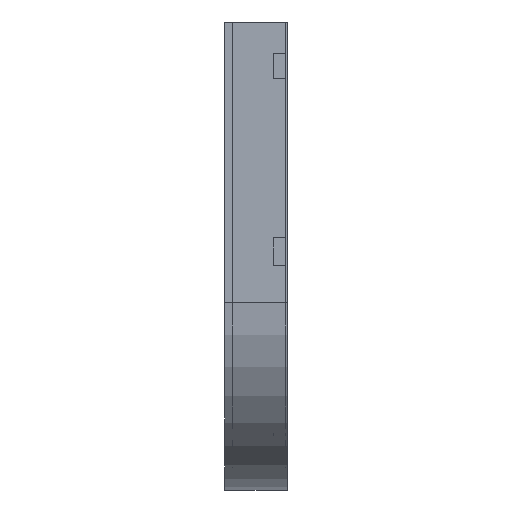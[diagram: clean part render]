
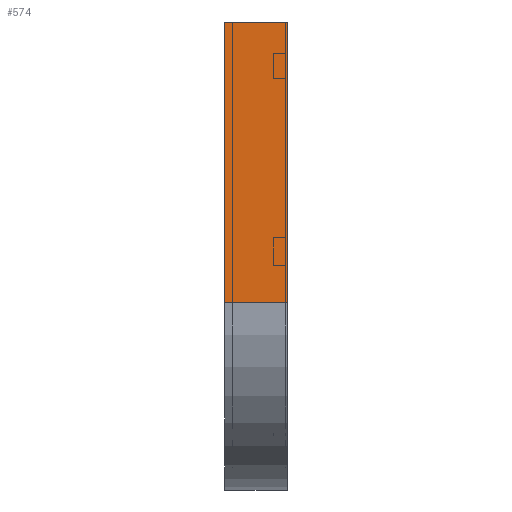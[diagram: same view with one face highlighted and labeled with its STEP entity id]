
A CAD part, left-side view. The second image highlights one B-rep face of the part: STEP entity #574.
In plain terms, the highlighted planar face has unit normal (-1, 0, 0).
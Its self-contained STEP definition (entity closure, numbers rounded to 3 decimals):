
#18 = VERTEX_POINT ( 'NONE', #230 ) ;
#76 = EDGE_CURVE ( 'NONE', #1053, #812, #1383, .T. ) ;
#92 = VECTOR ( 'NONE', #510, 1000. ) ;
#149 = CARTESIAN_POINT ( 'NONE',  ( 0., 0., 0. ) ) ;
#157 = CARTESIAN_POINT ( 'NONE',  ( 0., 0., 0. ) ) ;
#217 = EDGE_CURVE ( 'NONE', #668, #812, #1757, .T. ) ;
#230 = CARTESIAN_POINT ( 'NONE',  ( 0., 100., 0. ) ) ;
#303 = EDGE_CURVE ( 'NONE', #18, #668, #1595, .T. ) ;
#306 = ORIENTED_EDGE ( 'NONE', *, *, #303, .F. ) ;
#330 = CARTESIAN_POINT ( 'NONE',  ( 0., 100., -450. ) ) ;
#337 = CARTESIAN_POINT ( 'NONE',  ( 0., 100., 0. ) ) ;
#360 = VECTOR ( 'NONE', #621, 1000. ) ;
#453 = AXIS2_PLACEMENT_3D ( 'NONE', #157, #1569, #785 ) ;
#510 = DIRECTION ( 'NONE',  ( 0., 0., -1. ) ) ;
#572 = DIRECTION ( 'NONE',  ( 0., -1., 0. ) ) ;
#574 = ADVANCED_FACE ( 'NONE', ( #910 ), #945, .F. ) ;
#605 = EDGE_CURVE ( 'NONE', #18, #1053, #1155, .T. ) ;
#621 = DIRECTION ( 'NONE',  ( 0., -1., 0. ) ) ;
#630 = ORIENTED_EDGE ( 'NONE', *, *, #76, .T. ) ;
#668 = VERTEX_POINT ( 'NONE', #1845 ) ;
#675 = CARTESIAN_POINT ( 'NONE',  ( 0., 0., -450. ) ) ;
#740 = EDGE_LOOP ( 'NONE', ( #1645, #306, #937, #630 ) ) ;
#777 = DIRECTION ( 'NONE',  ( 0., 0., -1. ) ) ;
#785 = DIRECTION ( 'NONE',  ( 0., 0., -1. ) ) ;
#812 = VERTEX_POINT ( 'NONE', #675 ) ;
#910 = FACE_OUTER_BOUND ( 'NONE', #740, .T. ) ;
#937 = ORIENTED_EDGE ( 'NONE', *, *, #605, .T. ) ;
#945 = PLANE ( 'NONE',  #453 ) ;
#1053 = VERTEX_POINT ( 'NONE', #330 ) ;
#1155 = LINE ( 'NONE', #337, #92 ) ;
#1383 = LINE ( 'NONE', #2013, #1440 ) ;
#1440 = VECTOR ( 'NONE', #572, 1000. ) ;
#1569 = DIRECTION ( 'NONE',  ( 1., 0., 0. ) ) ;
#1595 = LINE ( 'NONE', #149, #360 ) ;
#1645 = ORIENTED_EDGE ( 'NONE', *, *, #217, .F. ) ;
#1697 = VECTOR ( 'NONE', #777, 1000. ) ;
#1757 = LINE ( 'NONE', #1796, #1697 ) ;
#1796 = CARTESIAN_POINT ( 'NONE',  ( 0., 0., 0. ) ) ;
#1845 = CARTESIAN_POINT ( 'NONE',  ( 0., 0., 0. ) ) ;
#2013 = CARTESIAN_POINT ( 'NONE',  ( 0., 0., -450. ) ) ;
